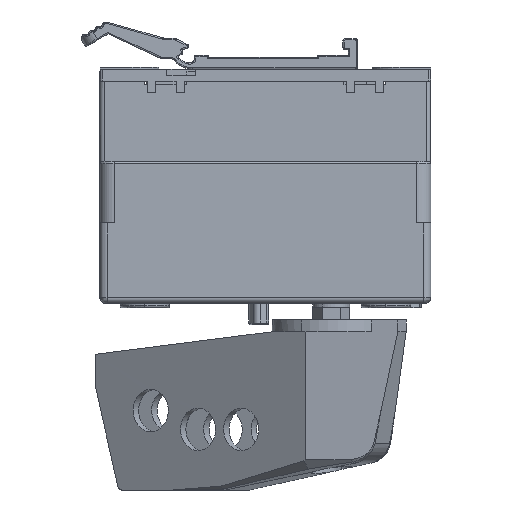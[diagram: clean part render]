
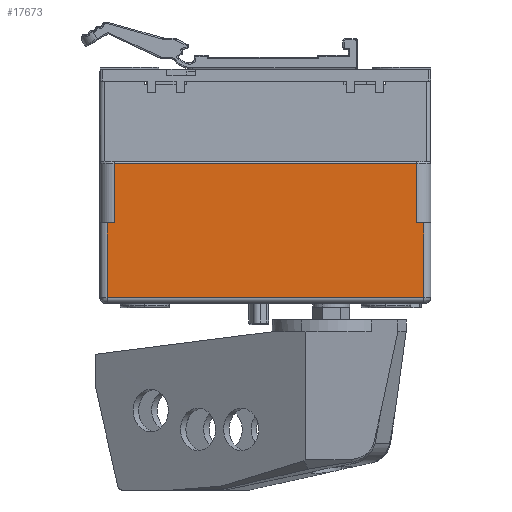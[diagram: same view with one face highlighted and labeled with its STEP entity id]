
A CAD part, left-side view. The second image highlights one B-rep face of the part: STEP entity #17673.
In plain terms, the highlighted planar face has unit normal (-1, 0, 0).
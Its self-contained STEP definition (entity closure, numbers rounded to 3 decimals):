
#321 = CARTESIAN_POINT ( 'NONE',  ( 0., 68.5, -24.8 ) ) ;
#2123 = DIRECTION ( 'NONE',  ( 0., 1., 0. ) ) ;
#3863 = AXIS2_PLACEMENT_3D ( 'NONE', #31183, #38565, #62224 ) ;
#6074 = VECTOR ( 'NONE', #12439, 1000. ) ;
#6867 = ORIENTED_EDGE ( 'NONE', *, *, #27337, .T. ) ;
#7121 = ORIENTED_EDGE ( 'NONE', *, *, #17644, .F. ) ;
#9224 = VECTOR ( 'NONE', #33987, 1000. ) ;
#9482 = EDGE_CURVE ( 'NONE', #22850, #19535, #14626, .T. ) ;
#9591 = DIRECTION ( 'NONE',  ( 0., 0., -1. ) ) ;
#12439 = DIRECTION ( 'NONE',  ( 0., 0., 1. ) ) ;
#14263 = VECTOR ( 'NONE', #9591, 1000. ) ;
#14626 = LINE ( 'NONE', #15306, #59589 ) ;
#15306 = CARTESIAN_POINT ( 'NONE',  ( 0., 1.5, -9. ) ) ;
#15805 = CARTESIAN_POINT ( 'NONE',  ( 0., 1.5, -24.8 ) ) ;
#17182 = CARTESIAN_POINT ( 'NONE',  ( 0., 68.5, -24.8 ) ) ;
#17404 = ORIENTED_EDGE ( 'NONE', *, *, #53908, .F. ) ;
#17644 = EDGE_CURVE ( 'NONE', #32817, #19561, #57104, .T. ) ;
#17673 = ADVANCED_FACE ( 'NONE', ( #42470 ), #47211, .T. ) ;
#18946 = ORIENTED_EDGE ( 'NONE', *, *, #9482, .T. ) ;
#19535 = VERTEX_POINT ( 'NONE', #46988 ) ;
#19561 = VERTEX_POINT ( 'NONE', #21384 ) ;
#19689 = EDGE_CURVE ( 'NONE', #28157, #26765, #65369, .T. ) ;
#20117 = VECTOR ( 'NONE', #27101, 1000. ) ;
#21384 = CARTESIAN_POINT ( 'NONE',  ( 0., 3., 3.5 ) ) ;
#21614 = CARTESIAN_POINT ( 'NONE',  ( 0., 1.5, -9. ) ) ;
#22850 = VERTEX_POINT ( 'NONE', #24223 ) ;
#23592 = EDGE_LOOP ( 'NONE', ( #17404, #61573, #40047, #6867, #38153, #7121, #64364, #18946 ) ) ;
#24223 = CARTESIAN_POINT ( 'NONE',  ( 0., 67., -9. ) ) ;
#26765 = VERTEX_POINT ( 'NONE', #21614 ) ;
#27101 = DIRECTION ( 'NONE',  ( 0., -1., 0. ) ) ;
#27337 = EDGE_CURVE ( 'NONE', #26765, #41732, #27998, .T. ) ;
#27998 = LINE ( 'NONE', #48807, #48034 ) ;
#28157 = VERTEX_POINT ( 'NONE', #15805 ) ;
#28852 = CARTESIAN_POINT ( 'NONE',  ( 0., 1.5, -24.8 ) ) ;
#31183 = CARTESIAN_POINT ( 'NONE',  ( 0., 70., -26. ) ) ;
#32817 = VERTEX_POINT ( 'NONE', #51569 ) ;
#33560 = CARTESIAN_POINT ( 'NONE',  ( 0., 67., -7. ) ) ;
#33987 = DIRECTION ( 'NONE',  ( 0., 0., 1. ) ) ;
#38153 = ORIENTED_EDGE ( 'NONE', *, *, #52125, .F. ) ;
#38241 = VECTOR ( 'NONE', #43773, 1000. ) ;
#38344 = LINE ( 'NONE', #33560, #6074 ) ;
#38565 = DIRECTION ( 'NONE',  ( -1., 0., 0. ) ) ;
#40047 = ORIENTED_EDGE ( 'NONE', *, *, #19689, .T. ) ;
#40551 = DIRECTION ( 'NONE',  ( 0., -1., 0. ) ) ;
#41732 = VERTEX_POINT ( 'NONE', #43035 ) ;
#41851 = CARTESIAN_POINT ( 'NONE',  ( 0., 68.5, -24.8 ) ) ;
#41894 = LINE ( 'NONE', #321, #47543 ) ;
#41930 = LINE ( 'NONE', #46701, #14263 ) ;
#42470 = FACE_OUTER_BOUND ( 'NONE', #23592, .T. ) ;
#42957 = VERTEX_POINT ( 'NONE', #41851 ) ;
#43035 = CARTESIAN_POINT ( 'NONE',  ( 0., 3., -9. ) ) ;
#43099 = LINE ( 'NONE', #17182, #38241 ) ;
#43773 = DIRECTION ( 'NONE',  ( 0., 0., 1. ) ) ;
#46114 = EDGE_CURVE ( 'NONE', #22850, #32817, #38344, .T. ) ;
#46701 = CARTESIAN_POINT ( 'NONE',  ( 0., 3., 3.5 ) ) ;
#46988 = CARTESIAN_POINT ( 'NONE',  ( 0., 68.5, -9. ) ) ;
#47211 = PLANE ( 'NONE',  #3863 ) ;
#47543 = VECTOR ( 'NONE', #40551, 1000. ) ;
#48034 = VECTOR ( 'NONE', #2123, 1000. ) ;
#48807 = CARTESIAN_POINT ( 'NONE',  ( 0., 1.5, -9. ) ) ;
#51569 = CARTESIAN_POINT ( 'NONE',  ( 0., 67., 3.5 ) ) ;
#52125 = EDGE_CURVE ( 'NONE', #19561, #41732, #41930, .T. ) ;
#52329 = CARTESIAN_POINT ( 'NONE',  ( 0., 67., 3.5 ) ) ;
#53908 = EDGE_CURVE ( 'NONE', #42957, #19535, #43099, .T. ) ;
#56893 = DIRECTION ( 'NONE',  ( 0., 1., 0. ) ) ;
#57104 = LINE ( 'NONE', #52329, #20117 ) ;
#59589 = VECTOR ( 'NONE', #56893, 1000. ) ;
#61573 = ORIENTED_EDGE ( 'NONE', *, *, #62534, .T. ) ;
#62224 = DIRECTION ( 'NONE',  ( 0., 0., 1. ) ) ;
#62534 = EDGE_CURVE ( 'NONE', #42957, #28157, #41894, .T. ) ;
#64364 = ORIENTED_EDGE ( 'NONE', *, *, #46114, .F. ) ;
#65369 = LINE ( 'NONE', #28852, #9224 ) ;
